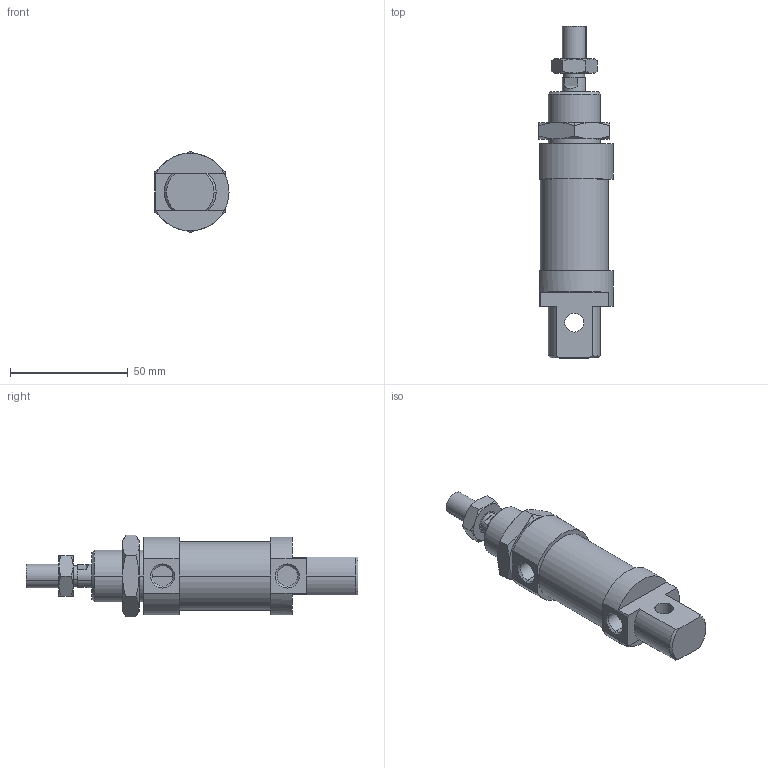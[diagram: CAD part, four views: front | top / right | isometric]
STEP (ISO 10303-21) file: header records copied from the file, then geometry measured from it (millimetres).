
FILE_DESCRIPTION((''),'2;1');
FILE_NAME('I:\DOC-EDP\Lib-3d\1200\CILINDRI\1260\1260_25_0000.stp','2003-04-02T15:02:37',('maffial1'),(''),'Autodesk Inventor (R) 6.0','Autodesk Inventor (R) 6.0','');
FILE_SCHEMA(('AUTOMOTIVE_DESIGN { 1 0 10303 214 1 1 1 1 }'));
Length unit declared in the file: millimetre
Products named in the file (5): 1260_25_0000; S1260_25_0; 1200_25_05; 1200_25_06; C1260_25_0
Assembly tree (4 placements, depth 2):
  1260_25_0000
    S1260_25_0
    1200_25_05
    1200_25_06
    C1260_25_0
Bounding box: 31.5 x 141 x 34.64 mm (x, y, z)
Volume: 68462.8 mm3; surface area: 18516.2 mm2
Topology: 4 solids, 4 shells, 123 faces, 272 edges, 164 vertices
Faces by surface type: plane 41, cone 40, cylinder 22, bspline 20
Entity records: 3703 total; most frequent: CARTESIAN_POINT 984, DIRECTION 566, ORIENTED_EDGE 544, EDGE_CURVE 272, AXIS2_PLACEMENT_3D 234, VERTEX_POINT 164, EDGE_LOOP 136, FACE_OUTER_BOUND 123
